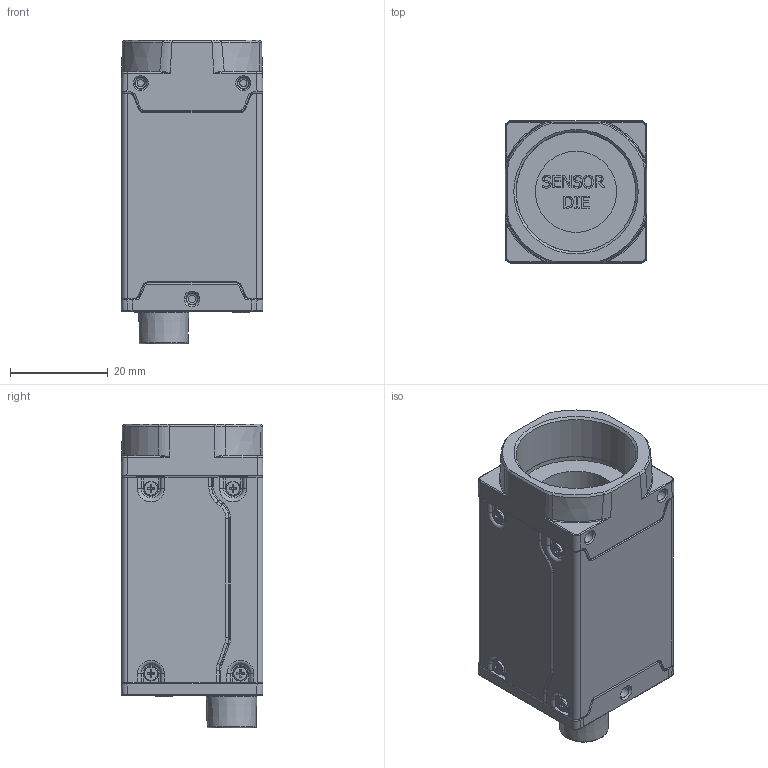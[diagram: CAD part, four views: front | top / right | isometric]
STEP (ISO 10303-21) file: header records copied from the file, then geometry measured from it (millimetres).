
FILE_DESCRIPTION(/* description */ ('Basler ace2 GigE'),/* implementation_level */ '2;1');
FILE_NAME(/* name */ 'C:\Users\lzins\Desktop\Basler ace2 GigE.stp',/* time_stamp */ '2019-05-20T10:27:11+02:00',/* author */ ('LZins'),/* organization */ (''),/* preprocessor_version */ 'ST-DEVELOPER v16.1',/* originating_system */ 'Autodesk Inventor 2016',/* authorisation */ '');
FILE_SCHEMA (('AUTOMOTIVE_DESIGN { 1 0 10303 214 3 1 1 }'));
Products named in the file (1): IP02765201
Bounding box: 29 x 29 x 62.17 mm (x, y, z)
Volume: 37255.9 mm3; surface area: 17146.5 mm2
Topology: 1 solids, 28 shells, 2806 faces, 8122 edges, 5429 vertices
Faces by surface type: plane 1443, bspline 511, cylinder 439, cone 245, torus 158, sphere 10
Full cylindrical faces by diameter (mm): 0.95 x6, 1.2 x2, 1.3 x1, 1.39 x8, 1.4 x6, 1.567 x2, 1.85 x8, 2.459 x3, 3 x8, 5.6 x1, 5.8 x1, 6.917 x1, 7 x1, 7.6 x1, 16.6 x1, 24.45 x1, 24.536 x1
Entity records: 195945 total; most frequent: CARTESIAN_POINT 124864, ORIENTED_EDGE 15646, DIRECTION 12372, EDGE_CURVE 7737, VERTEX_POINT 5263, LINE 4212, VECTOR 4212, AXIS2_PLACEMENT_3D 4080
